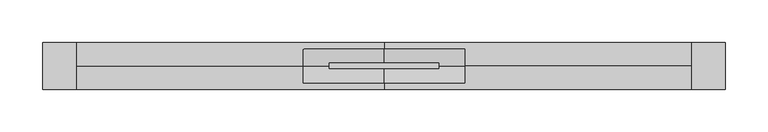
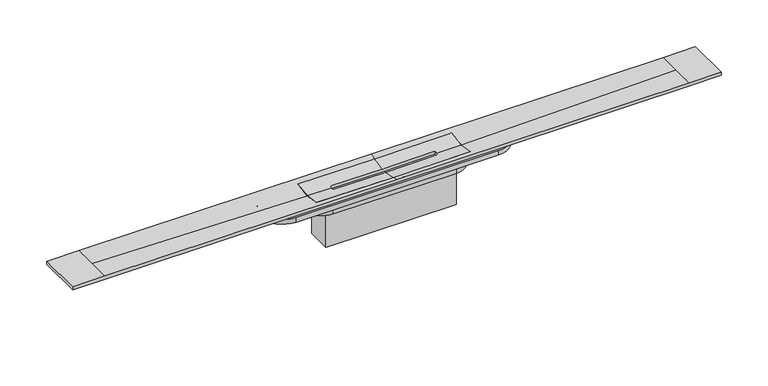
"""IFC4 building model written with IfcOpenShell, lengths in millimetres: sanitary terminal geometry, PF_ST_WPB_ShowerDrain S+_ACO : DN50 w=30mm."""

from ifc_helpers import new_model, si_unit, frame, origin, place, context, project, spatial, polyline, circle_curve, outline, extrude, source, transform, mapped, element, save
from ifc_brep_helpers import plane_surface, cylinder_surface, revolved_surface, spline_surface, advanced_brep


def sanitary_terminal_a009f342(model_context):
    return source(origin(), model_context, "Body", "SolidModel", [
        extrude(outline(polyline([(80.2147672, 14.9991176), (80.2147672, -14.9991176), (-80.2147672, -14.9991176), (-80.2147672, 14.9991176), (80.2147672, 14.9991176)])), frame((0.0, 0.0, -68.0), z_axis=(0.0, 0.0, 1.0), x_axis=(1.0, 0.0, 0.0)), (0.0, 0.0, 1.0), 56.0),
        extrude(outline(polyline([(92.5, 18.0), (92.5, -18.0), (-92.5, -18.0), (-92.5, 18.0), (92.5, 18.0)])), frame((0.0, 0.0, -11.75), z_axis=(0.0, 0.0, 1.0), x_axis=(1.0, 0.0, 0.0)), (0.0, 0.0, 1.0), 1.25),
        advanced_brep(
        [(94.75, 0.0, -4.6294881), (94.75, 19.8, -1.2962567), (0.0, 19.8, -1.7592927), (0.0, 3.75, -5.4263899), (65.0, 3.75, -4.4466251), (65.0, 0.0, -5.1487238), (94.75, -19.8, -1.2962567), (65.0, -3.75, -4.4466251), (0.0, -3.75, -5.4263899), (0.0, -19.8, -1.7592927), (94.75, 0.0, -8.6294881), (94.75, -19.8, -5.2962567), (0.0, -19.8, -5.7592927), (0.0, -3.75, -9.4263899), (65.0, -3.75, -8.4466251), (65.0, 0.0, -9.1487238), (94.75, 19.8, -5.2962567), (65.0, 3.75, -8.4466251), (0.0, 3.75, -9.4263899), (0.0, 19.8, -5.7592927), (-94.75, -19.8, -1.2962567), (-94.75, -19.8, -5.2962567), (-94.75, 0.0, -4.6294881), (-94.75, 19.8, -1.2962567), (-94.75, 19.8, -5.2962567), (-94.75, 0.0, -8.6294881), (-65.0, 0.0, -5.1487238), (-65.0, 3.75, -4.4466251), (-65.0, 3.75, -8.4466251), (-65.0, 0.0, -9.1487238), (-65.0, -3.75, -8.4466251), (-65.0, -3.75, -4.4466251)],
        [
            (0, 1),
            (1, 2),
            (2, 3),
            (3, 4),
            (4, 5),
            (5, 0),
            (6, 0),
            (5, 7),
            (7, 8),
            (8, 9),
            (9, 6),
            (10, 11),
            (11, 12),
            (12, 13),
            (13, 14),
            (14, 15),
            (15, 10),
            (16, 10),
            (15, 17),
            (17, 18),
            (18, 19),
            (19, 16),
            (16, 1),
            (6, 11),
            (9, 20),
            (20, 21),
            (21, 12),
            (20, 22),
            (22, 23),
            (23, 24),
            (24, 25),
            (25, 21),
            (19, 24),
            (23, 2),
            (22, 26),
            (26, 27),
            (27, 3),
            (18, 28),
            (28, 29),
            (29, 25),
            (29, 30),
            (30, 13),
            (8, 31),
            (31, 26),
            (17, 4),
            (27, 28),
            (31, 30),
            (7, 14),
        ],
        [
            spline_surface(1, 1, [[(360.0, 0.0, 0.0), (0.0, 0.0, -6.2831883)], [(360.0, 27.5, 0.0), (0.0, 27.5, 0.0)]], [2, 2], [2, 2], [0.0, 1.0], [0.0, 1.0]),
            spline_surface(1, 1, [[(360.0, -27.5, 0.0), (0.0, -27.5, 0.0)], [(360.0, 0.0, 0.0), (0.0, 0.0, -6.2831883)]], [2, 2], [2, 2], [0.0, 1.0], [0.0, 1.0]),
            spline_surface(1, 1, [[(360.0, 0.0, -4.0), (0.0, 0.0, -10.2831883)], [(360.0, -27.5, -4.0), (0.0, -27.5, -4.0)]], [2, 2], [2, 2], [0.0, 1.0], [0.0, 1.0]),
            spline_surface(1, 1, [[(360.0, 27.5, -4.0), (0.0, 27.5, -4.0)], [(360.0, 0.0, -4.0), (0.0, 0.0, -10.2831883)]], [2, 2], [2, 2], [0.0, 1.0], [0.0, 1.0]),
            plane_surface(frame((94.75, 19.8, 0.0), z_axis=(1.0, 0.0, 0.0), x_axis=(0.0, 0.0, -1.0))),
            plane_surface(frame((94.75, -19.8, 0.0), z_axis=(0.0, -1.0, 0.0), x_axis=(0.0, 0.0, -1.0))),
            plane_surface(frame((-94.75, -19.8, 0.0), z_axis=(-1.0, 0.0, 0.0), x_axis=(0.0, 0.0, -1.0))),
            plane_surface(frame((-94.75, 19.8, 0.0), z_axis=(0.0, 1.0, 0.0), x_axis=(0.0, 0.0, -1.0))),
            spline_surface(1, 1, [[(-360.0, 27.5, 0.0), (0.0, 27.5, 0.0)], [(-360.0, 0.0, 0.0), (0.0, 0.0, -6.2831883)]], [2, 2], [2, 2], [0.0, 1.0], [0.0, 1.0]),
            spline_surface(1, 1, [[(-360.0, 0.0, -4.0), (0.0, 0.0, -10.2831883)], [(-360.0, 27.5, -4.0), (0.0, 27.5, -4.0)]], [2, 2], [2, 2], [0.0, 1.0], [0.0, 1.0]),
            spline_surface(1, 1, [[(-360.0, -27.5, -4.0), (0.0, -27.5, -4.0)], [(-360.0, 0.0, -4.0), (0.0, 0.0, -10.2831883)]], [2, 2], [2, 2], [0.0, 1.0], [0.0, 1.0]),
            spline_surface(1, 1, [[(-360.0, 0.0, 0.0), (0.0, 0.0, -6.2831883)], [(-360.0, -27.5, 0.0), (0.0, -27.5, 0.0)]], [2, 2], [2, 2], [0.0, 1.0], [0.0, 1.0]),
            plane_surface(frame((65.0, 3.75, 0.0), z_axis=(0.0, -1.0, 0.0), x_axis=(0.0, 0.0, -1.0))),
            plane_surface(frame((-65.0, 3.75, 0.0), z_axis=(1.0, 0.0, 0.0), x_axis=(0.0, 0.0, -1.0))),
            plane_surface(frame((-65.0, -3.75, 0.0), z_axis=(0.0, 1.0, 0.0), x_axis=(0.0, 0.0, -1.0))),
            plane_surface(frame((65.0, -3.75, 0.0), z_axis=(-1.0, 0.0, 0.0), x_axis=(0.0, 0.0, -1.0))),
        ],
        [
            (0, [[1, 2, 3, 4, 5, 6]]),
            (1, [[7, -6, 8, 9, 10, 11]]),
            (2, [[12, 13, 14, 15, 16, 17]]),
            (3, [[18, -17, 19, 20, 21, 22]]),
            (4, [[23, -1, -7, 24, -12, -18]]),
            (5, [[-24, -11, 25, 26, 27, -13]]),
            (6, [[-26, 28, 29, 30, 31, 32]]),
            (7, [[-23, -22, 33, -30, 34, -2]]),
            (8, [[-29, 35, 36, 37, -3, -34]]),
            (9, [[-31, -33, -21, 38, 39, 40]]),
            (10, [[-27, -32, -40, 41, 42, -14]]),
            (11, [[-25, -10, 43, 44, -35, -28]]),
            (12, [[45, -4, -37, 46, -38, -20]]),
            (13, [[-46, -36, -44, 47, -41, -39]]),
            (14, [[-47, -43, -9, 48, -15, -42]]),
            (15, [[-45, -19, -16, -48, -8, -5]]),
        ],
    ),
        advanced_brep(
        [(125.0, 27.5, -12.0), (125.0, -27.5, -12.0), (-125.0, -27.5, -12.0), (-125.0, 27.5, -12.0), (75.0, 22.0, -12.0), (-75.0, 22.0, -12.0), (-75.624958, -22.0, -12.0), (76.5620759, -22.0, -12.0), (125.0, 27.5, -6.0), (-125.0, 27.5, -6.0), (-125.0, -27.5, -6.0), (125.0, -27.5, -6.0), (75.0, 18.5, -6.0), (76.6659145, -18.5, -6.0), (-76.6659145, -18.5, -6.0), (-75.0, 18.5, -6.0), (75.0, 22.0, -22.0), (76.5620759, -22.0, -22.0), (-75.624958, -22.0, -22.0), (-75.0, 22.0, -22.0), (76.6659145, -18.5, -22.0), (75.0, 18.5, -22.0), (-75.0, 18.5, -22.0), (-76.6659145, -18.5, -22.0)],
        [
            (0, 1, circle_curve(frame((125.0, 0.0, -12.0), z_axis=(0.0, 0.0, -1.0), x_axis=(1.0, 0.0, 0.0)), 27.5)),
            (1, 2),
            (2, 3, circle_curve(frame((-125.0, 0.0, -12.0), z_axis=(0.0, 0.0, -1.0), x_axis=(1.0, 0.0, 0.0)), 27.5)),
            (3, 0),
            (4, 5),
            (5, 6, circle_curve(frame((-75.624958, 0.0044383, -12.0), z_axis=(0.0, 0.0, 1.0), x_axis=(1.0, 0.0, 0.0)), 22.0044383)),
            (6, 7),
            (7, 4, circle_curve(frame((76.5620759, 0.0277282, -12.0), z_axis=(0.0, 0.0, 1.0), x_axis=(1.0, 0.0, 0.0)), 22.0277282)),
            (8, 9),
            (9, 10, circle_curve(frame((-125.0, 0.0, -6.0), z_axis=(0.0, 0.0, 1.0), x_axis=(1.0, 0.0, 0.0)), 27.5)),
            (10, 11),
            (11, 8, circle_curve(frame((125.0, 0.0, -6.0), z_axis=(0.0, 0.0, 1.0), x_axis=(1.0, 0.0, 0.0)), 27.5)),
            (12, 13, circle_curve(frame((76.6659145, 0.0375037, -6.0), z_axis=(0.0, 0.0, -1.0), x_axis=(-1.0, 0.0, 0.0)), 18.5375037)),
            (13, 14),
            (14, 15, circle_curve(frame((-76.6659145, 0.0375037, -6.0), z_axis=(0.0, 0.0, -1.0), x_axis=(-1.0, 0.0, 0.0)), 18.5375037)),
            (15, 12),
            (3, 9),
            (8, 0),
            (2, 10),
            (1, 11),
            (16, 17, circle_curve(frame((76.5620759, 0.0277282, -22.0), z_axis=(0.0, 0.0, -1.0), x_axis=(1.0, 0.0, 0.0)), 22.0277282)),
            (17, 18),
            (18, 19, circle_curve(frame((-75.624958, 0.0044383, -22.0), z_axis=(0.0, 0.0, -1.0), x_axis=(1.0, 0.0, 0.0)), 22.0044383)),
            (19, 16),
            (20, 21, circle_curve(frame((76.6659145, 0.0375037, -22.0), z_axis=(0.0, 0.0, 1.0), x_axis=(-1.0, 0.0, 0.0)), 18.5375037)),
            (21, 22),
            (22, 23, circle_curve(frame((-76.6659145, 0.0375037, -22.0), z_axis=(0.0, 0.0, 1.0), x_axis=(-1.0, 0.0, 0.0)), 18.5375037)),
            (23, 20),
            (19, 5),
            (4, 16),
            (18, 6),
            (17, 7),
            (12, 21),
            (20, 13),
            (23, 14),
            (22, 15),
        ],
        [
            plane_surface(frame((-125.0, 27.5, -12.0), z_axis=(0.0, 0.0, -1.0), x_axis=(1.0, 0.0, 0.0))),
            plane_surface(frame((-125.0, 27.5, -6.0), z_axis=(0.0, 0.0, 1.0), x_axis=(-1.0, 0.0, 0.0))),
            plane_surface(frame((125.0, 27.5, -6.0), z_axis=(0.0, 1.0, 0.0), x_axis=(0.0, 0.0, -1.0))),
            cylinder_surface(frame((-125.0, 0.0, -12.0), z_axis=(0.0, 0.0, 1.0), x_axis=(1.0, 0.0, 0.0)), 27.5),
            plane_surface(frame((-125.0, -27.5, -6.0), z_axis=(0.0, -1.0, 0.0), x_axis=(0.0, 0.0, -1.0))),
            cylinder_surface(frame((125.0, 0.0, -12.0), z_axis=(0.0, 0.0, 1.0), x_axis=(1.0, 0.0, 0.0)), 27.5),
            plane_surface(frame((-75.0, 22.0, -22.0), z_axis=(0.0, 0.0, -1.0), x_axis=(1.0, 0.0, 0.0))),
            plane_surface(frame((75.0, 22.0, -12.0), z_axis=(0.0, 1.0, 0.0), x_axis=(0.0, 0.0, -1.0))),
            cylinder_surface(frame((-75.624958, 0.0044383, -22.0), z_axis=(0.0, 0.0, 1.0), x_axis=(1.0, 0.0, 0.0)), 22.0044383),
            plane_surface(frame((-75.624958, -22.0, -12.0), z_axis=(0.0, -1.0, 0.0), x_axis=(0.0, 0.0, -1.0))),
            cylinder_surface(frame((76.5620759, 0.0277282, -22.0), z_axis=(0.0, 0.0, 1.0), x_axis=(1.0, 0.0, 0.0)), 22.0277282),
            revolved_surface(polyline([(58.1284108, 0.0375037, -22.0), (58.1284108, 0.0375037, -6.0)]), (76.6659145, 0.0375037, -4.0), (0.0, 0.0, -1.0)),
            plane_surface(frame((76.6659145, -18.5, -22.0), z_axis=(0.0, 1.0, 0.0), x_axis=(0.0, 0.0, 1.0))),
            revolved_surface(polyline([(-95.2034182, 0.0375037, -22.0), (-95.2034182, 0.0375037, -6.0)]), (-76.6659145, 0.0375037, -4.0), (0.0, 0.0, -1.0)),
            plane_surface(frame((-75.0, 18.5, -22.0), z_axis=(0.0, -1.0, 0.0), x_axis=(0.0, 0.0, 1.0))),
        ],
        [
            (0, [[1, 2, 3, 4], [5, 6, 7, 8]]),
            (1, [[9, 10, 11, 12], [13, 14, 15, 16]]),
            (2, [[-4, 17, -9, 18]]),
            (3, [[-3, 19, -10, -17]]),
            (4, [[-2, 20, -11, -19]]),
            (5, [[-1, -18, -12, -20]]),
            (6, [[21, 22, 23, 24], [25, 26, 27, 28]]),
            (7, [[-24, 29, -5, 30]]),
            (8, [[-23, 31, -6, -29]]),
            (9, [[-22, 32, -7, -31]]),
            (10, [[-21, -30, -8, -32]]),
            (11, [[33, -25, 34, -13]]),
            (12, [[-34, -28, 35, -14]]),
            (13, [[-35, -27, 36, -15]]),
            (14, [[-33, -16, -36, -26]]),
        ],
    ),
        advanced_brep(
        [(-360.0, 27.5, 0.0), (0.0, 27.5, 0.0), (360.0, 27.5, 0.0), (400.0, 27.5, 0.0), (400.0, 27.5, -4.0), (360.0, 27.5, -4.0), (0.0, 27.5, -4.0), (-360.0, 27.5, -4.0), (-400.0, 27.5, -4.0), (-400.0, 27.5, 0.0), (-360.0, 0.0, 0.0), (-95.0, 0.0, -4.6251248), (-95.0, 20.0, -1.2613977), (0.0, 20.0, -1.7135968), (-360.0, -27.5, 0.0), (0.0, -27.5, 0.0), (0.0, -20.0, -1.7135968), (-95.0, -20.0, -1.2613977), (-400.0, -27.5, 0.0), (-400.0, -27.5, -4.0), (-360.0, -27.5, -4.0), (0.0, -27.5, -4.0), (360.0, -27.5, -4.0), (400.0, -27.5, -4.0), (400.0, -27.5, 0.0), (360.0, -27.5, 0.0), (-360.0, 0.0, -4.0), (-95.0, 0.0, -8.6251248), (-95.0, -20.0, -5.2613977), (0.0, -20.0, -5.7135968), (0.0, 20.0, -5.7135968), (-95.0, 20.0, -5.2613977), (360.0, 0.0, -4.0), (95.0, 0.0, -8.6251248), (95.0, 20.0, -5.2613977), (95.0, -20.0, -5.2613977), (360.0, 0.0, 0.0), (95.0, 0.0, -4.6251248), (95.0, -20.0, -1.2613977), (95.0, 20.0, -1.2613977)],
        [
            (0, 1),
            (1, 2),
            (2, 3),
            (3, 4),
            (4, 5),
            (5, 6),
            (6, 7),
            (7, 8),
            (8, 9),
            (9, 0),
            (0, 10),
            (10, 11),
            (11, 12),
            (12, 13),
            (13, 1),
            (14, 15),
            (15, 16),
            (16, 17),
            (17, 11),
            (10, 14),
            (14, 18),
            (18, 19),
            (19, 20),
            (20, 21),
            (21, 22),
            (22, 23),
            (23, 24),
            (24, 25),
            (25, 15),
            (20, 26),
            (26, 27),
            (27, 28),
            (28, 29),
            (29, 21),
            (6, 30),
            (30, 31),
            (31, 27),
            (26, 7),
            (5, 32),
            (32, 33),
            (33, 34),
            (34, 30),
            (29, 35),
            (35, 33),
            (32, 22),
            (25, 36),
            (36, 37),
            (37, 38),
            (38, 16),
            (13, 39),
            (39, 37),
            (36, 2),
            (18, 9),
            (8, 19),
            (23, 4),
            (3, 24),
            (34, 39),
            (12, 31),
            (17, 28),
            (38, 35),
        ],
        [
            plane_surface(frame((-360.0, 27.5, -2.0), z_axis=(0.0, 1.0, 0.0), x_axis=(0.0, 0.0, 1.0))),
            spline_surface(1, 1, [[(-360.0, 27.5, 0.0), (0.0, 27.5, 0.0)], [(-360.0, 0.0, 0.0), (0.0, 0.0, -6.2831883)]], [2, 2], [2, 2], [0.0, 1.0], [0.0, 1.0]),
            spline_surface(1, 1, [[(-360.0, 0.0, 0.0), (0.0, 0.0, -6.2831883)], [(-360.0, -27.5, 0.0), (0.0, -27.5, 0.0)]], [2, 2], [2, 2], [0.0, 1.0], [0.0, 1.0]),
            plane_surface(frame((-360.0, -27.5, -2.0), z_axis=(0.0, -1.0, 0.0), x_axis=(0.0, 0.0, -1.0))),
            spline_surface(1, 1, [[(-360.0, -27.5, -4.0), (0.0, -27.5, -4.0)], [(-360.0, 0.0, -4.0), (0.0, 0.0, -10.2831883)]], [2, 2], [2, 2], [0.0, 1.0], [0.0, 1.0]),
            spline_surface(1, 1, [[(-360.0, 0.0, -4.0), (0.0, 0.0, -10.2831883)], [(-360.0, 27.5, -4.0), (0.0, 27.5, -4.0)]], [2, 2], [2, 2], [0.0, 1.0], [0.0, 1.0]),
            spline_surface(1, 1, [[(360.0, 27.5, -4.0), (0.0, 27.5, -4.0)], [(360.0, 0.0, -4.0), (0.0, 0.0, -10.2831883)]], [2, 2], [2, 2], [0.0, 1.0], [0.0, 1.0]),
            spline_surface(1, 1, [[(360.0, 0.0, -4.0), (0.0, 0.0, -10.2831883)], [(360.0, -27.5, -4.0), (0.0, -27.5, -4.0)]], [2, 2], [2, 2], [0.0, 1.0], [0.0, 1.0]),
            spline_surface(1, 1, [[(360.0, -27.5, 0.0), (0.0, -27.5, 0.0)], [(360.0, 0.0, 0.0), (0.0, 0.0, -6.2831883)]], [2, 2], [2, 2], [0.0, 1.0], [0.0, 1.0]),
            spline_surface(1, 1, [[(360.0, 0.0, 0.0), (0.0, 0.0, -6.2831883)], [(360.0, 27.5, 0.0), (0.0, 27.5, 0.0)]], [2, 2], [2, 2], [0.0, 1.0], [0.0, 1.0]),
            plane_surface(frame((-400.0, -27.5, 0.0), z_axis=(-1.0, 0.0, 0.0), x_axis=(0.0, 0.0, 1.0))),
            plane_surface(frame((-360.0, -27.5, -4.0), z_axis=(0.0, 0.0, -1.0), x_axis=(-1.0, 0.0, 0.0))),
            plane_surface(frame((-360.0, 27.5, 0.0), z_axis=(0.0, 0.0, 1.0), x_axis=(-1.0, 0.0, 0.0))),
            plane_surface(frame((400.0, -27.5, 0.0), z_axis=(1.0, 0.0, 0.0), x_axis=(0.0, 0.0, -1.0))),
            plane_surface(frame((400.0, -27.5, -4.0), z_axis=(0.0, 0.0, -1.0), x_axis=(-1.0, 0.0, 0.0))),
            plane_surface(frame((400.0, 27.5, 0.0), z_axis=(0.0, 0.0, 1.0), x_axis=(-1.0, 0.0, 0.0))),
            plane_surface(frame((95.0, 20.0, 0.0), z_axis=(0.0, -1.0, 0.0), x_axis=(0.0, 0.0, -1.0))),
            plane_surface(frame((-95.0, 20.0, 0.0), z_axis=(1.0, 0.0, 0.0), x_axis=(0.0, 0.0, -1.0))),
            plane_surface(frame((-95.0, -20.0, 0.0), z_axis=(0.0, 1.0, 0.0), x_axis=(0.0, 0.0, -1.0))),
            plane_surface(frame((95.0, -20.0, 0.0), z_axis=(-1.0, 0.0, 0.0), x_axis=(0.0, 0.0, -1.0))),
        ],
        [
            (0, [[1, 2, 3, 4, 5, 6, 7, 8, 9, 10]]),
            (1, [[-1, 11, 12, 13, 14, 15]]),
            (2, [[16, 17, 18, 19, -12, 20]]),
            (3, [[-16, 21, 22, 23, 24, 25, 26, 27, 28, 29]]),
            (4, [[-24, 30, 31, 32, 33, 34]]),
            (5, [[-7, 35, 36, 37, -31, 38]]),
            (6, [[-6, 39, 40, 41, 42, -35]]),
            (7, [[-25, -34, 43, 44, -40, 45]]),
            (8, [[-29, 46, 47, 48, 49, -17]]),
            (9, [[-2, -15, 50, 51, -47, 52]]),
            (10, [[53, -9, 54, -22]]),
            (11, [[-54, -8, -38, -30, -23]]),
            (12, [[-53, -21, -20, -11, -10]]),
            (13, [[-27, 55, -4, 56]]),
            (14, [[-55, -26, -45, -39, -5]]),
            (15, [[-56, -3, -52, -46, -28]]),
            (16, [[57, -50, -14, 58, -36, -42]]),
            (17, [[-58, -13, -19, 59, -32, -37]]),
            (18, [[-59, -18, -49, 60, -43, -33]]),
            (19, [[-57, -41, -44, -60, -48, -51]]),
        ],
    ),
    ])


if __name__ == "__main__":
    model = new_model("IFC4")
    model_context = context("Model", 3, world=origin())
    ifc_project = project(units=[si_unit("LENGTHUNIT", "METRE", prefix="MILLI")], contexts=[model_context])
    site = spatial("IfcSite", under=ifc_project)
    building = spatial("IfcBuilding", under=site)
    placement = place(None, origin())
    sanitary_terminal_shape = sanitary_terminal_a009f342(model_context)
    element("IfcSanitaryTerminal", 1, ObjectType="PF_ST_WPB_ShowerDrain S+_ACO : DN50 w=30mm", at=placement, inside=building, context=model_context, shape_type="MappedRepresentation", body=[
        mapped(sanitary_terminal_shape, transform((0.0, 0.0, 0.0), x_axis=(1.0, 0.0, 0.0), y_axis=(0.0, 1.0, 0.0), z_axis=(0.0, 0.0, 1.0))),
    ])
    save(model, "model.ifc")
